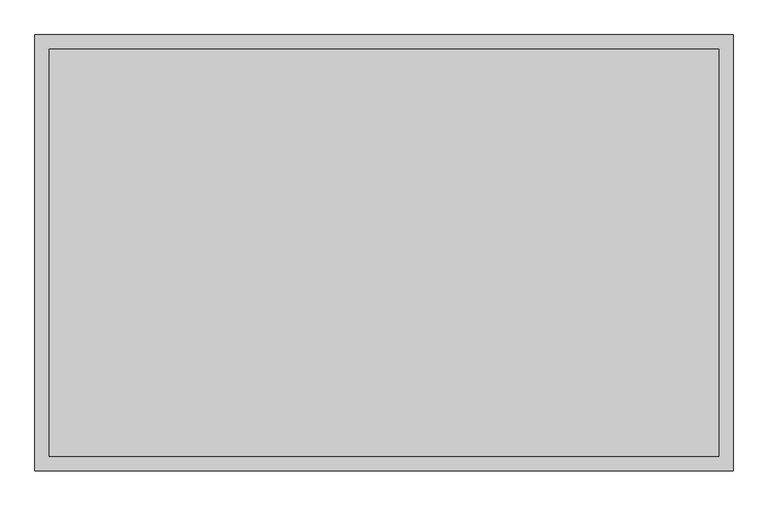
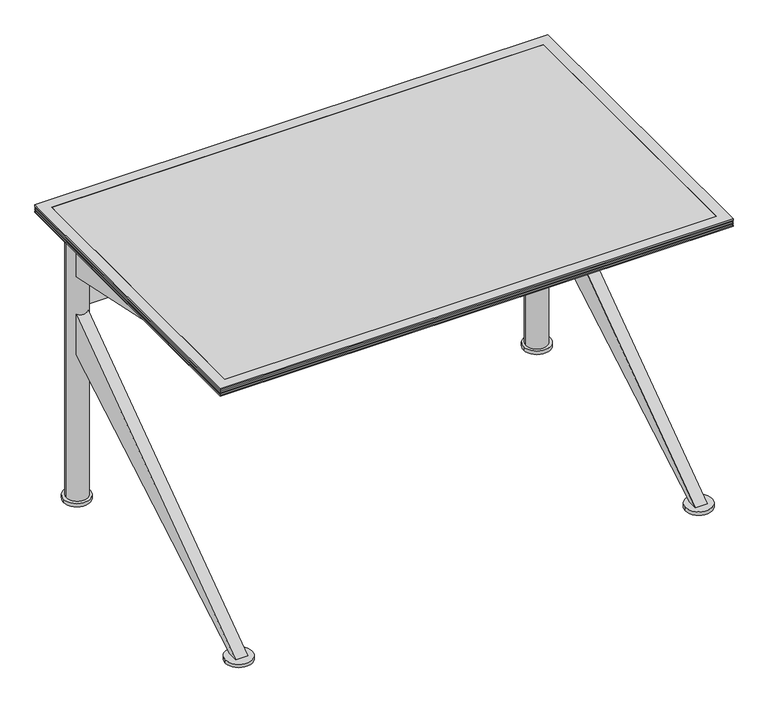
"""IFC4 building model written with IfcOpenShell, lengths in millimetres: furniture geometry, Coalesse_AM_Table_Conference_Ballet_Rectangular_KBase : Non Folding - 48L x 30W."""

from ifc_helpers import new_model, si_unit, point, frame, frame_2d, origin, origin_with_axes, place, context, project, spatial, polyline, circle_curve, trimmed, segment, composite_curve, outline, extrude, faceted_brep, source, transform, mapped, element, save
from ifc_brep_helpers import plane_surface, cylinder_surface, advanced_brep


def furniture_f50cbc5f(model_context):
    return source(origin(), model_context, "Body", "SolidModel", [
        extrude(outline(composite_curve([segment(trimmed(circle_curve(frame_2d((-547.0092495, -349.25)), 25.4), [point((-572.4092495, -349.25))], [point((-521.6092495, -349.25))], False, "CARTESIAN"), True, "CONTINUOUS"), segment(trimmed(circle_curve(frame_2d((-547.0092495, -349.25)), 25.4), [point((-521.6092495, -349.25))], [point((-572.4092495, -349.25))], False, "CARTESIAN"), True, "CONTINUOUS")], self_intersect=False)), origin_with_axes(), (0.0, 0.0, 1.0), 4.2936144),
        extrude(outline(composite_curve([segment(trimmed(circle_curve(frame_2d((546.2624629, -349.25)), 25.4), [point((520.8624629, -349.25))], [point((571.6624629, -349.25))], False, "CARTESIAN"), True, "CONTINUOUS"), segment(trimmed(circle_curve(frame_2d((546.2624629, -349.25)), 25.4), [point((571.6624629, -349.25))], [point((520.8624629, -349.25))], False, "CARTESIAN"), True, "CONTINUOUS")], self_intersect=False)), origin_with_axes(), (0.0, 0.0, 1.0), 4.2936144),
        extrude(outline(composite_curve([segment(trimmed(circle_curve(frame_2d((546.2154995, 316.815286)), 25.4), [point((571.6154995, 316.815286))], [point((520.8154995, 316.815286))], False, "CARTESIAN"), True, "CONTINUOUS"), segment(trimmed(circle_curve(frame_2d((546.2154995, 316.815286)), 25.4), [point((520.8154995, 316.815286))], [point((571.6154995, 316.815286))], False, "CARTESIAN"), True, "CONTINUOUS")], self_intersect=False)), origin_with_axes(), (0.0, 0.0, 1.0), 4.2936144),
        extrude(outline(composite_curve([segment(trimmed(circle_curve(frame_2d((-547.0562129, 316.815286)), 25.4), [point((-521.6562129, 316.815286))], [point((-572.4562129, 316.815286))], False, "CARTESIAN"), True, "CONTINUOUS"), segment(trimmed(circle_curve(frame_2d((-547.0562129, 316.815286)), 25.4), [point((-572.4562129, 316.815286))], [point((-521.6562129, 316.815286))], False, "CARTESIAN"), True, "CONTINUOUS")], self_intersect=False)), origin_with_axes(), (0.0, 0.0, 1.0), 4.2936144),
        extrude(outline(composite_curve([segment(trimmed(circle_curve(frame_2d((546.2154995, 316.815286)), 31.75), [point((577.9654995, 316.815286))], [point((514.4654995, 316.815286))], False, "CARTESIAN"), True, "CONTINUOUS"), segment(trimmed(circle_curve(frame_2d((546.2154995, 316.815286)), 31.75), [point((514.4654995, 316.815286))], [point((577.9654995, 316.815286))], False, "CARTESIAN"), True, "CONTINUOUS")], self_intersect=False)), frame((0.0, 0.0, 4.2936144), z_axis=(0.0, 0.0, 1.0), x_axis=(1.0, 0.0, 0.0)), (0.0, 0.0, 1.0), 8.4063856),
        extrude(outline(composite_curve([segment(trimmed(circle_curve(frame_2d((-547.0562129, 316.815286)), 31.75), [point((-515.3062129, 316.815286))], [point((-578.8062129, 316.815286))], False, "CARTESIAN"), True, "CONTINUOUS"), segment(trimmed(circle_curve(frame_2d((-547.0562129, 316.815286)), 31.75), [point((-578.8062129, 316.815286))], [point((-515.3062129, 316.815286))], False, "CARTESIAN"), True, "CONTINUOUS")], self_intersect=False)), frame((0.0, 0.0, 4.2936144), z_axis=(0.0, 0.0, 1.0), x_axis=(1.0, 0.0, 0.0)), (0.0, 0.0, 1.0), 8.4063856),
        extrude(outline(polyline([(296.4656271, 577.7388634), (-269.874901, 698.5000242), (-238.124901, 698.5000242), (296.4656271, 641.3500242), (296.4656271, 577.7388634)])), frame((-560.4007845, 0.0, 0.0), z_axis=(1.0, 0.0, 0.0), x_axis=(0.0, 1.0, 0.0)), (0.0, 0.0, 1.0), 28.5877899),
        extrude(outline(polyline([(296.4656271, 381.0), (-338.1375951, 12.7), (-360.3624013, 12.7), (296.4656271, 482.7111245), (296.4656271, 381.0)])), frame((-560.4007845, 0.0, 0.0), z_axis=(1.0, 0.0, 0.0), x_axis=(0.0, 1.0, 0.0)), (0.0, 0.0, 1.0), 28.5877899),
        extrude(outline(polyline([(296.4656271, 577.7388634), (-269.874901, 698.5000242), (-238.124901, 698.5000242), (296.4656271, 641.3500242), (296.4656271, 577.7388634)])), frame((531.8121992, 0.0, 0.0), z_axis=(1.0, 0.0, 0.0), x_axis=(0.0, 1.0, 0.0)), (0.0, 0.0, 1.0), 28.575),
        extrude(outline(polyline([(296.4656271, 381.0), (-338.1375951, 12.7), (-360.3624013, 12.7), (296.4656271, 482.7111245), (296.4656271, 381.0)])), frame((531.8121992, 0.0, 0.0), z_axis=(1.0, 0.0, 0.0), x_axis=(0.0, 1.0, 0.0)), (0.0, 0.0, 1.0), 28.575),
        advanced_brep(
        [(524.1033169, 304.8000021, 568.3250121), (-524.1033169, 304.8000021, 568.3250121), (-524.1033169, 304.8000021, 492.1250121), (524.1033169, 304.8000021, 492.1250121), (-520.7003634, 317.5, 492.1250121), (-524.1032635, 330.1999052, 492.1250121), (524.1032635, 330.1999052, 492.1250121), (520.7003634, 317.5, 492.1250121), (-524.1032635, 330.1999052, 568.3250121), (524.1032635, 330.1999052, 568.3250121), (520.7003634, 317.5, 568.3250121), (-520.7003634, 317.5, 568.3250121), (-571.5003633, 317.5, 698.5000242), (-520.7003634, 317.5, 698.5000242), (520.7003634, 317.5, 698.5000242), (571.5003633, 317.5, 698.5000242), (-571.5003633, 317.5, 12.7), (-520.7003634, 317.5, 12.7), (520.7003634, 317.5, 12.7), (571.5003633, 317.5, 12.7)],
        [
            (0, 1),
            (1, 2),
            (2, 3),
            (3, 0),
            (2, 4, circle_curve(frame((-546.1003633, 317.5, 492.1250121), z_axis=(0.0, 0.0, 1.0), x_axis=(1.0, 0.0, 0.0)), 25.3999999)),
            (4, 5, circle_curve(frame((-546.1003633, 317.5, 492.1250121), z_axis=(0.0, 0.0, 1.0), x_axis=(1.0, 0.0, 0.0)), 25.3999999)),
            (5, 6),
            (6, 7, circle_curve(frame((546.1003633, 317.5, 492.1250121), z_axis=(0.0, 0.0, 1.0), x_axis=(1.0, 0.0, 0.0)), 25.3999999)),
            (7, 3, circle_curve(frame((546.1003633, 317.5, 492.1250121), z_axis=(0.0, 0.0, 1.0), x_axis=(1.0, 0.0, 0.0)), 25.3999999)),
            (5, 8),
            (8, 9),
            (9, 6),
            (0, 10, circle_curve(frame((546.1003633, 317.5, 568.3250121), z_axis=(0.0, 0.0, -1.0), x_axis=(1.0, 0.0, 0.0)), 25.3999999)),
            (10, 9, circle_curve(frame((546.1003633, 317.5, 568.3250121), z_axis=(0.0, 0.0, -1.0), x_axis=(1.0, 0.0, 0.0)), 25.3999999)),
            (8, 11, circle_curve(frame((-546.1003633, 317.5, 568.3250121), z_axis=(0.0, 0.0, -1.0), x_axis=(1.0, 0.0, 0.0)), 25.3999999)),
            (11, 1, circle_curve(frame((-546.1003633, 317.5, 568.3250121), z_axis=(0.0, 0.0, -1.0), x_axis=(1.0, 0.0, 0.0)), 25.3999999)),
            (12, 13, circle_curve(frame((-546.1003633, 317.5, 698.5000242), z_axis=(0.0, 0.0, 1.0), x_axis=(1.0, 0.0, 0.0)), 25.3999999)),
            (13, 12, circle_curve(frame((-546.1003633, 317.5, 698.5000242), z_axis=(0.0, 0.0, 1.0), x_axis=(1.0, 0.0, 0.0)), 25.3999999)),
            (14, 15, circle_curve(frame((546.1003633, 317.5, 698.5000242), z_axis=(0.0, 0.0, 1.0), x_axis=(1.0, 0.0, 0.0)), 25.3999999)),
            (15, 14, circle_curve(frame((546.1003633, 317.5, 698.5000242), z_axis=(0.0, 0.0, 1.0), x_axis=(1.0, 0.0, 0.0)), 25.3999999)),
            (16, 17, circle_curve(frame((-546.1003633, 317.5, 12.7), z_axis=(0.0, 0.0, -1.0), x_axis=(1.0, 0.0, 0.0)), 25.3999999)),
            (17, 16, circle_curve(frame((-546.1003633, 317.5, 12.7), z_axis=(0.0, 0.0, -1.0), x_axis=(1.0, 0.0, 0.0)), 25.3999999)),
            (18, 19, circle_curve(frame((546.1003633, 317.5, 12.7), z_axis=(0.0, 0.0, -1.0), x_axis=(1.0, 0.0, 0.0)), 25.3999999)),
            (19, 18, circle_curve(frame((546.1003633, 317.5, 12.7), z_axis=(0.0, 0.0, -1.0), x_axis=(1.0, 0.0, 0.0)), 25.3999999)),
            (12, 16),
            (17, 4),
            (11, 13),
            (14, 10),
            (7, 18),
            (19, 15),
        ],
        [
            plane_surface(frame((531.8121992, 304.8000021, 568.3250121), z_axis=(0.0, -1.0, 0.0), x_axis=(-1.0, 0.0, 0.0))),
            plane_surface(frame((531.8121992, 304.8000021, 492.1250121), z_axis=(0.0, 0.0, -1.0), x_axis=(-1.0, 0.0, 0.0))),
            plane_surface(frame((531.8121992, 330.1999052, 492.1250121), z_axis=(0.0, 1.0, 0.0), x_axis=(-1.0, 0.0, 0.0))),
            plane_surface(frame((531.8121992, 330.1999052, 568.3250121), z_axis=(0.0, 0.0, 1.0), x_axis=(-1.0, 0.0, 0.0))),
            plane_surface(frame((-520.7003634, 317.5, 698.5000242), z_axis=(0.0, 0.0, 1.0), x_axis=(0.0, 1.0, 0.0))),
            plane_surface(frame((-520.7003634, 317.5, 12.7), z_axis=(0.0, 0.0, -1.0), x_axis=(0.0, -1.0, 0.0))),
            cylinder_surface(frame((-546.1003633, 317.5, 12.7), z_axis=(0.0, 0.0, 1.0), x_axis=(1.0, 0.0, 0.0)), 25.3999999),
            cylinder_surface(frame((546.1003633, 317.5, 0.0), z_axis=(0.0, 0.0, 1.0), x_axis=(1.0, 0.0, 0.0)), 25.3999999),
        ],
        [
            (0, [[1, 2, 3, 4]]),
            (1, [[-3, 5, 6, 7, 8, 9]]),
            (2, [[-7, 10, 11, 12]]),
            (3, [[-1, 13, 14, -11, 15, 16]]),
            (4, [[17, 18]]),
            (4, [[19, 20]]),
            (5, [[21, 22]]),
            (5, [[23, 24]]),
            (6, [[-17, 25, -22, 26, -5, -2, -16, 27]]),
            (6, [[-18, -27, -15, -10, -6, -26, -21, -25]]),
            (7, [[-19, 28, -13, -4, -9, 29, -24, 30]]),
            (7, [[-20, -30, -23, -29, -8, -12, -14, -28]]),
        ],
    ),
        extrude(outline(composite_curve([segment(trimmed(circle_curve(frame_2d((-547.0092495, -349.25)), 31.75), [point((-578.7592495, -349.25))], [point((-515.2592495, -349.25))], False, "CARTESIAN"), True, "CONTINUOUS"), segment(trimmed(circle_curve(frame_2d((-547.0092495, -349.25)), 31.75), [point((-515.2592495, -349.25))], [point((-578.7592495, -349.25))], False, "CARTESIAN"), True, "CONTINUOUS")], self_intersect=False)), frame((0.0, 0.0, 4.2936144), z_axis=(0.0, 0.0, 1.0), x_axis=(1.0, 0.0, 0.0)), (0.0, 0.0, 1.0), 8.4063856),
        extrude(outline(composite_curve([segment(trimmed(circle_curve(frame_2d((546.2624629, -349.25)), 31.75), [point((514.5124629, -349.25))], [point((578.0124629, -349.25))], False, "CARTESIAN"), True, "CONTINUOUS"), segment(trimmed(circle_curve(frame_2d((546.2624629, -349.25)), 31.75), [point((578.0124629, -349.25))], [point((514.5124629, -349.25))], False, "CARTESIAN"), True, "CONTINUOUS")], self_intersect=False)), frame((0.0, 0.0, 4.2936144), z_axis=(0.0, 0.0, 1.0), x_axis=(1.0, 0.0, 0.0)), (0.0, 0.0, 1.0), 8.4063856),
        faceted_brep([(-609.6003633, 381.0, 704.85), (-584.2003876, 355.6000242, 698.5000242), (-584.2003876, -355.5999516, 698.5000242), (-609.6003633, -380.9999273, 704.85), (-609.6003633, 381.0, 708.0250242), (-609.6003633, -380.9999273, 708.0250242), (-606.4253755, 377.8250121, 709.6125), (-606.4253755, -377.8249394, 709.6125), (-609.6003633, 381.0, 711.1999758), (-609.6003633, -380.9999273, 711.1999758), (-606.4253755, 377.8250121, 712.7875242), (-606.4253755, -377.8249394, 712.7875242), (-609.6003633, 381.0, 714.375), (-609.6003633, -380.9999273, 714.375), (-606.4253755, 377.8250121, 715.9624758), (-606.4253755, -377.8249394, 715.9624758), (-609.6003633, 381.0, 717.5500242), (-609.6003633, -380.9999273, 717.5500242), (-606.4253755, 377.8250121, 719.1375), (-606.4253755, -377.8249394, 719.1375), (-609.6003633, 381.0, 720.7249758), (-609.6003633, -380.9999273, 720.7249758), (-609.6003633, 381.0, 723.9), (-609.6003633, -380.9999273, 723.9), (-584.2003876, 355.6000242, 723.9), (-584.2003876, -355.5999516, 723.9), (584.1998062, -355.5999516, 698.5000242), (609.599782, -380.9999273, 704.85), (609.599782, -380.9999273, 708.0250242), (606.4247941, -377.8249394, 709.6125), (609.599782, -380.9999273, 711.1999758), (606.4247941, -377.8249394, 712.7875242), (609.599782, -380.9999273, 714.375), (606.4247941, -377.8249394, 715.9624758), (609.599782, -380.9999273, 717.5500242), (606.4247941, -377.8249394, 719.1375), (609.599782, -380.9999273, 720.7249758), (609.599782, -380.9999273, 723.9), (584.1998062, -355.5999516, 723.9), (584.1998062, 355.6000242, 698.5000242), (609.599782, 381.0, 704.85), (609.599782, 381.0, 708.0250242), (606.4247941, 377.8250121, 709.6125), (609.599782, 381.0, 711.1999758), (606.4247941, 377.8250121, 712.7875242), (609.599782, 381.0, 714.375), (606.4247941, 377.8250121, 715.9624758), (609.599782, 381.0, 717.5500242), (606.4247941, 377.8250121, 719.1375), (609.599782, 381.0, 720.7249758), (609.599782, 381.0, 723.9), (584.1998062, 355.6000242, 723.9)], [[[0, 1, 2, 3]], [[4, 0, 3, 5]], [[6, 4, 5, 7]], [[8, 6, 7, 9]], [[10, 8, 9, 11]], [[12, 10, 11, 13]], [[14, 12, 13, 15]], [[16, 14, 15, 17]], [[18, 16, 17, 19]], [[20, 18, 19, 21]], [[22, 20, 21, 23]], [[1, 24, 25, 2]], [[3, 2, 26, 27]], [[5, 3, 27, 28]], [[7, 5, 28, 29]], [[9, 7, 29, 30]], [[11, 9, 30, 31]], [[13, 11, 31, 32]], [[15, 13, 32, 33]], [[17, 15, 33, 34]], [[19, 17, 34, 35]], [[21, 19, 35, 36]], [[23, 21, 36, 37]], [[2, 25, 38, 26]], [[27, 26, 39, 40]], [[28, 27, 40, 41]], [[29, 28, 41, 42]], [[30, 29, 42, 43]], [[31, 30, 43, 44]], [[32, 31, 44, 45]], [[33, 32, 45, 46]], [[34, 33, 46, 47]], [[35, 34, 47, 48]], [[36, 35, 48, 49]], [[37, 36, 49, 50]], [[26, 38, 51, 39]], [[40, 39, 1, 0]], [[41, 40, 0, 4]], [[42, 41, 4, 6]], [[43, 42, 6, 8]], [[44, 43, 8, 10]], [[45, 44, 10, 12]], [[46, 45, 12, 14]], [[47, 46, 14, 16]], [[48, 47, 16, 18]], [[49, 48, 18, 20]], [[50, 49, 20, 22]], [[23, 37, 50, 22], [24, 51, 38, 25]], [[39, 51, 24, 1]]]),
        extrude(outline(polyline([(584.1998062, 355.6000242), (584.1998062, -355.5999516), (-584.2003876, -355.5999516), (-584.2003876, 355.6000242), (584.1998062, 355.6000242)])), frame((0.0, 0.0, 704.85), z_axis=(0.0, 0.0, 1.0), x_axis=(1.0, 0.0, 0.0)), (0.0, 0.0, 1.0), 19.05),
    ])


if __name__ == "__main__":
    model = new_model("IFC4")
    model_context = context("Model", 3, world=origin())
    ifc_project = project(units=[si_unit("LENGTHUNIT", "METRE", prefix="MILLI")], contexts=[model_context])
    site = spatial("IfcSite", under=ifc_project)
    building = spatial("IfcBuilding", under=site)
    placement = place(None, origin())
    furniture_shape = furniture_f50cbc5f(model_context)
    element("IfcFurniture", 1, ObjectType="Coalesse_AM_Table_Conference_Ballet_Rectangular_KBase : Non Folding - 48L x 30W", at=placement, inside=building, context=model_context, shape_type="MappedRepresentation", body=[
        mapped(furniture_shape, transform((0.0, 0.0, 0.0), x_axis=(1.0, 0.0, 0.0), y_axis=(0.0, 1.0, 0.0), z_axis=(0.0, 0.0, 1.0))),
    ])
    save(model, "model.ifc")
